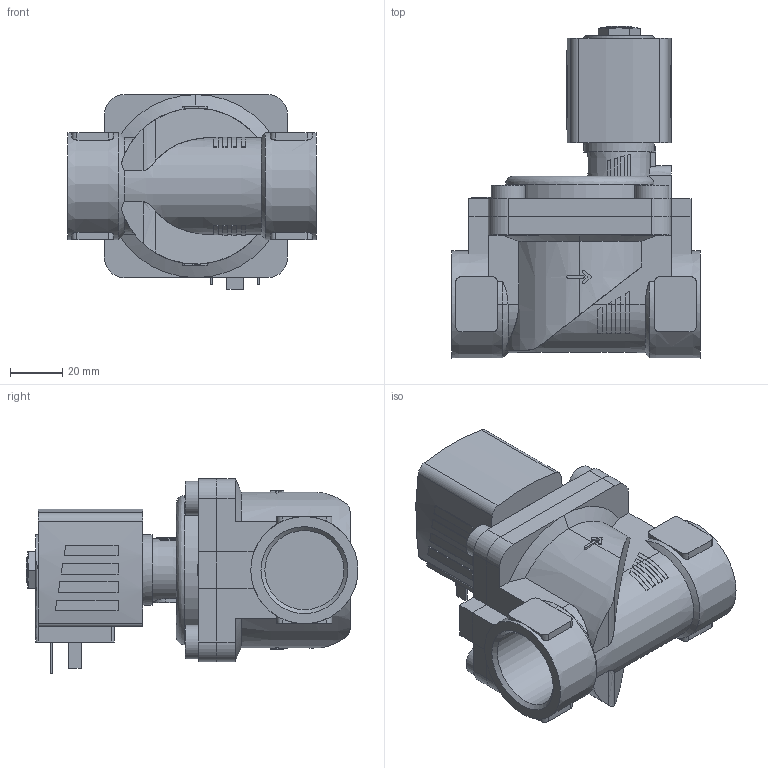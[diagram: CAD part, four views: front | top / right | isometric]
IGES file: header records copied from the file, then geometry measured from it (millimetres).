
Start section: Data from Parasolid IGES Translator 26.0.171, Copyright(c) 2006 Siemens PLM Software. All Rights Reserved.
Global section: file name: 6281-334563-2_2-Way_Solenoid_Valve__Servo-assisted__General_Purpose.igs; native system: By Siemens PLM Incorporated; preprocessor: XPlus GENERIC/IGES 26.0.171; author: Noname; organization: Noname; date: 20240617.164808; units: millimetre
Bounding box: 95 x 127 x 74.5 mm (x, y, z)
Surface area: 56772 mm2 (no closed solid volume)
Topology: 0 solids, 0 shells, 353 faces, 1886 edges, 1879 vertices
Faces by surface type: extrusion 234, revolution 119
